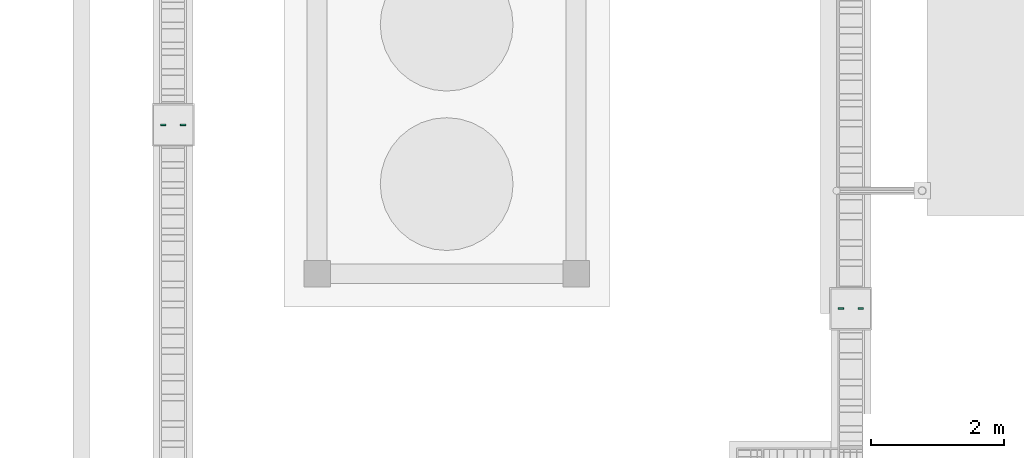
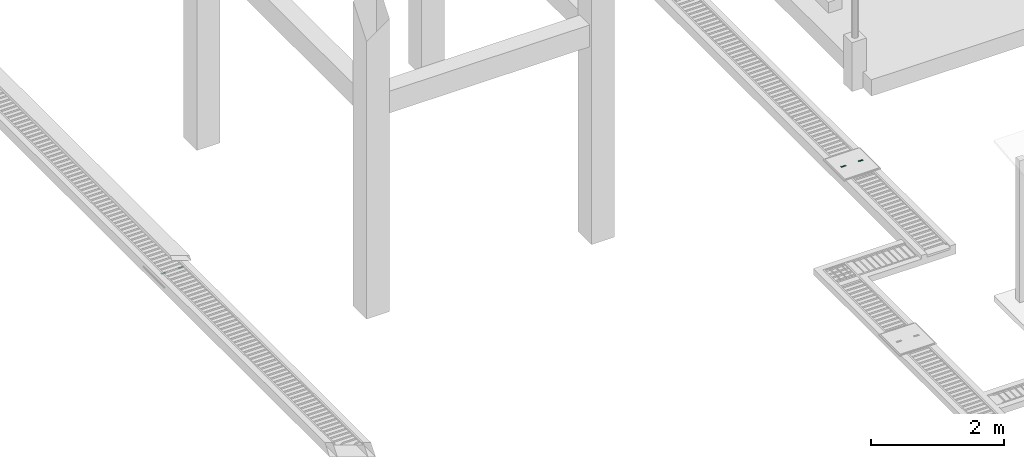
# One storey, part 64 of 90: 4 distribution chamber elements.
"""IFC2X3 building model written with IfcOpenShell, lengths in metres."""

from ifc_helpers import new_model, si_unit, origin, origin_with_axes, place, context, subcontext, project, spatial, faceted_brep, element, save


model = new_model("IFC2X3")

# Units and contexts
model_context = context("Model", 3, precision=1e-05, world=origin_with_axes())
body_context = subcontext(model_context, "Body", "Model", "MODEL_VIEW")
ifc_project = project(units=[si_unit("LENGTHUNIT", "METRE"), si_unit("AREAUNIT", "SQUARE_METRE"), si_unit("VOLUMEUNIT", "CUBIC_METRE"), si_unit("PLANEANGLEUNIT", "RADIAN")], contexts=[model_context])

# Site, building, storey
site_placement = place(None, origin_with_axes())
site = spatial("IfcSite", under=ifc_project, at=site_placement, Name="Predio Los Mangos - Morales, San Martín", CompositionType="ELEMENT")
building_placement = place(site_placement, origin())
building = spatial("IfcBuilding", under=site, at=building_placement, Name="Hogar de Refugio Temporal", CompositionType="ELEMENT")
storey_placement = place(building_placement, origin())
storey = spatial("IfcBuildingStorey", under=building, at=storey_placement, Name="NIVEL 1 (NPT +0.00)", CompositionType="ELEMENT", Elevation=0.0)

# Distribution chamber elements
distribution_chamber_element_1_placement = place(storey_placement, origin())
element("IfcDistributionChamberElement", 1, at=distribution_chamber_element_1_placement, inside=storey, Name="tapa_insp_asa", ObjectType="Tapa de inspección", context=body_context, shape_type="Brep", body=[
    faceted_brep([(2.243, 27.629, 0.104), (2.243, 27.653, 0.104), (2.323, 27.653, 0.104), (2.323, 27.629, 0.104), (2.243, 27.629, 0.108), (2.323, 27.629, 0.108), (2.323, 27.653, 0.108), (2.243, 27.653, 0.108)], [[[0, 1, 2, 3]], [[4, 5, 6, 7]], [[0, 3, 5, 4]], [[3, 2, 6, 5]], [[2, 1, 7, 6]], [[1, 0, 4, 7]]]),
])
distribution_chamber_element_2_placement = place(storey_placement, origin())
element("IfcDistributionChamberElement", 2, at=distribution_chamber_element_2_placement, inside=storey, Name="tapa_insp_asa", ObjectType="Tapa de inspección", context=body_context, shape_type="Brep", body=[
    faceted_brep([(2.543, 27.629, 0.104), (2.543, 27.653, 0.104), (2.623, 27.653, 0.104), (2.623, 27.629, 0.104), (2.543, 27.629, 0.108), (2.623, 27.629, 0.108), (2.623, 27.653, 0.108), (2.543, 27.653, 0.108)], [[[0, 1, 2, 3]], [[4, 5, 6, 7]], [[0, 3, 5, 4]], [[3, 2, 6, 5]], [[2, 1, 7, 6]], [[1, 0, 4, 7]]]),
])
distribution_chamber_element_3_placement = place(storey_placement, origin())
element("IfcDistributionChamberElement", 3, at=distribution_chamber_element_3_placement, inside=storey, Name="tapa_insp_asa", ObjectType="Tapa de inspección", context=body_context, shape_type="Brep", body=[
    faceted_brep([(12.445, 24.862, 0.17), (12.445, 24.886, 0.17), (12.525, 24.886, 0.17), (12.525, 24.862, 0.17), (12.445, 24.862, 0.174), (12.525, 24.862, 0.174), (12.525, 24.886, 0.174), (12.445, 24.886, 0.174)], [[[0, 1, 2, 3]], [[4, 5, 6, 7]], [[0, 3, 5, 4]], [[3, 2, 6, 5]], [[2, 1, 7, 6]], [[1, 0, 4, 7]]]),
])
distribution_chamber_element_4_placement = place(storey_placement, origin())
element("IfcDistributionChamberElement", 4, at=distribution_chamber_element_4_placement, inside=storey, Name="tapa_insp_asa", ObjectType="Tapa de inspección", context=body_context, shape_type="Brep", body=[
    faceted_brep([(12.745, 24.862, 0.17), (12.745, 24.886, 0.17), (12.825, 24.886, 0.17), (12.825, 24.862, 0.17), (12.745, 24.862, 0.174), (12.825, 24.862, 0.174), (12.825, 24.886, 0.174), (12.745, 24.886, 0.174)], [[[0, 1, 2, 3]], [[4, 5, 6, 7]], [[0, 3, 5, 4]], [[3, 2, 6, 5]], [[2, 1, 7, 6]], [[1, 0, 4, 7]]]),
])

save(model, "model.ifc")
